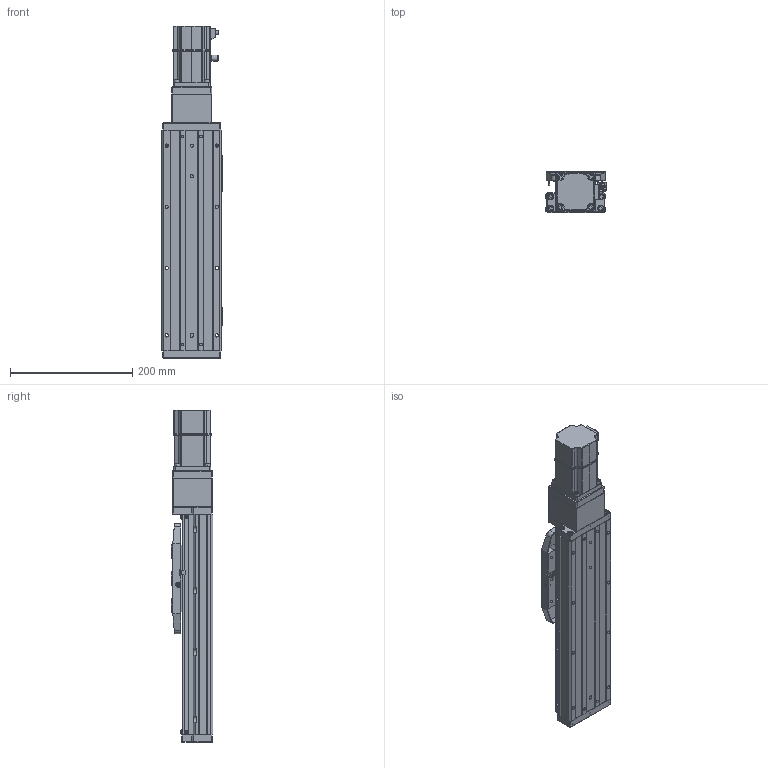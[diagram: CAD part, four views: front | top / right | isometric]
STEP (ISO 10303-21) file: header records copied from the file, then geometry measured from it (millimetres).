
FILE_DESCRIPTION (( 'STEP AP203' ), '1' );
FILE_NAME ('CTHA100-150-BC-M20-C4L.step', '2022-07-06T08:51:44', ( '微软用户' ), ( '微软中国' ), 'SwSTEP 2.0', 'SolidWorks 2020', '' );
FILE_SCHEMA (( 'CONFIG_CONTROL_DESIGN' ));
Length unit declared in the file: millimetre
Products named in the file (20): KTHA100-001_360; GBT77-2000 M3×3; CTHA86-006-1_CTHA86-006-2; KTHA100-004; GBT 70.1-M3℅6; GBT 70.3-M3℅6; KTHA100-005; GBT70.1 M5℅16; CTHA100-002; GB¨uT 70.2-M3¡Á5_M3¡Á6; CTHA60-016; CTHA100-031; EE_SX911P_R; _X2_4E0983F1_X0_200W_1; CTHA86-030; CTHA60-017; CTHA86-013; CTHA100-150-BC-M20-C4L; CTHA60-021; CTHA86-027
Assembly tree (63 placements, depth 2):
  CTHA100-150-BC-M20-C4L
    KTHA100-001_360
    KTHA100-004
    KTHA100-005
    GB¨uT 70.2-M3¡Á5_M3¡Á6  x10
    EE_SX911P_R  x3
    CTHA60-017  x3
    CTHA60-021  x2
    GBT77-2000 M3×3  x6
    GBT 70.1-M3℅6  x6
    GBT70.1 M5℅16  x14
    CTHA60-016  x2
    _X2_4E0983F1_X0_200W_1
    CTHA86-013
    CTHA86-027
    CTHA86-006-1_CTHA86-006-2
    GBT 70.3-M3℅6  x6
    CTHA100-002
    CTHA100-031
    CTHA86-030  x2
Bounding box: 98.82 x 68 x 542.5 mm (x, y, z)
Volume: 2081335.8 mm3; surface area: 393974.7 mm2
Topology: 65 solids, 65 shells, 2559 faces, 6102 edges, 3760 vertices
Faces by surface type: plane 1327, cylinder 661, cone 366, torus 112, bspline 69, sphere 24
Entity records: 43058 total; most frequent: CARTESIAN_POINT 8114, DIRECTION 6711, ORIENTED_EDGE 6476, EDGE_CURVE 3238, AXIS2_PLACEMENT_3D 2293, LINE 2125, VECTOR 2125, VERTEX_POINT 2038
